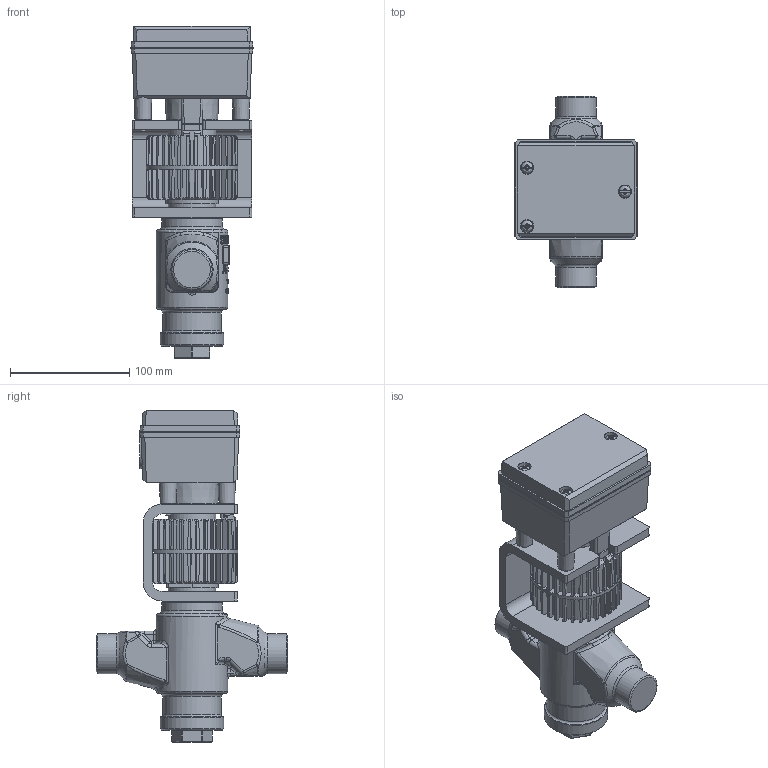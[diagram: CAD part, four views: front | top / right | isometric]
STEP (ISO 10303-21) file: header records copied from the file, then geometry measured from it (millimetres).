
FILE_DESCRIPTION(/* description */ (''),/* implementation_level */ '2;1');
FILE_NAME(/* name */ 'mvs661_1.stp',/* time_stamp */ '2010-12-01T14:41:24+01:00',/* author */ (''),/* organization */ (''),/* preprocessor_version */ 'ST-DEVELOPER v11',/* originating_system */ 'SIEMENS UGS NX 6.0',/* authorisation */ '');
FILE_SCHEMA (('CONFIG_CONTROL_DESIGN'));
Length unit declared in the file: millimetre
Products named in the file (1): styg1D9Fr2p7
Bounding box: 102.2 x 160 x 278 mm (x, y, z)
Volume: 1337574.7 mm3; surface area: 155196.3 mm2
Topology: 1 solids, 1 shells, 1356 faces, 3584 edges, 2274 vertices
Faces by surface type: plane 620, cone 256, extrusion 179, cylinder 169, bspline 79, torus 37, sphere 16
Full cylindrical faces by diameter (mm): 4 x3, 10 x3, 11 x3, 17 x3, 33.7 x2, 39.7 x1, 40 x1, 43.236 x1, 49 x1, 50 x1, 51 x1, 53 x1, 60 x1
Entity records: 47332 total; most frequent: CARTESIAN_POINT 15737, ORIENTED_EDGE 6962, DIRECTION 5830, EDGE_CURVE 3481, VERTEX_POINT 2247, AXIS2_PLACEMENT_3D 2096, VECTOR 1638, EDGE_LOOP 1488
